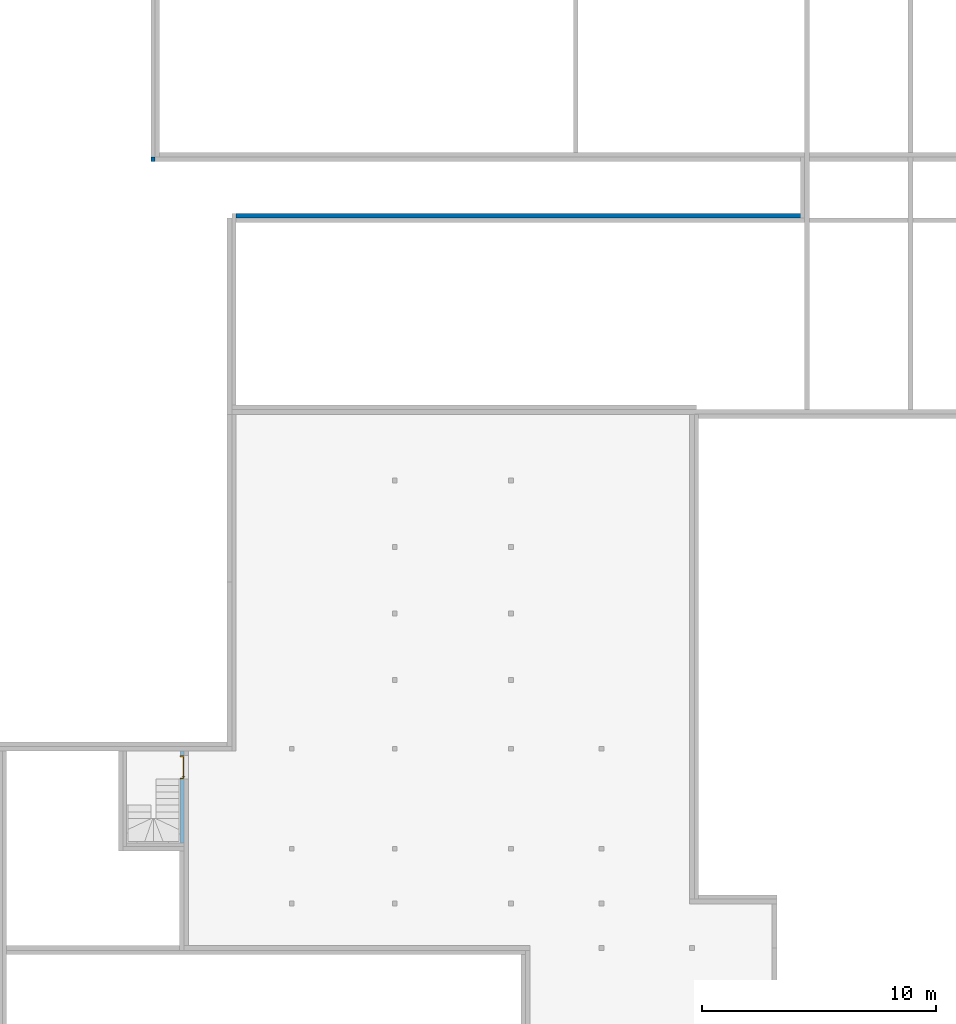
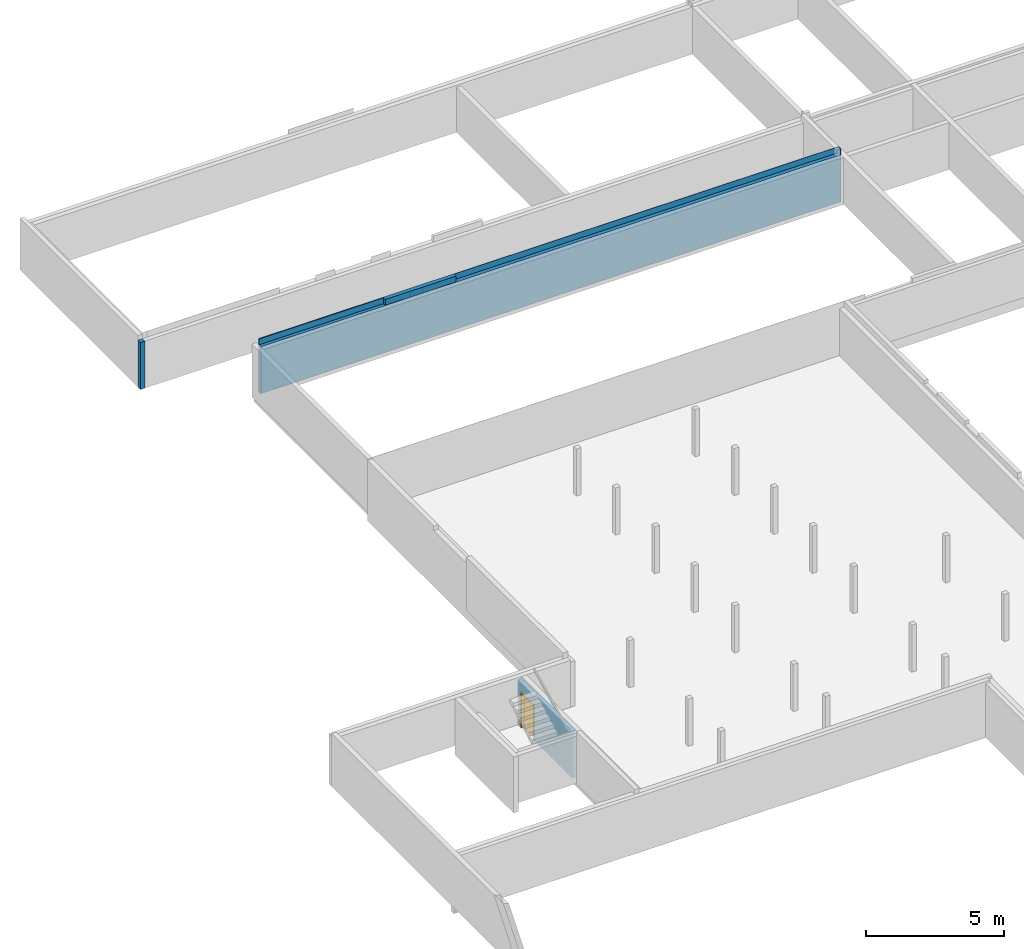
# One storey, part 4 of 6: 2 walls, 1 door, 1 opening, plus 1 element that does not belong to this part.
"""IFC2X3 building model written with IfcOpenShell, lengths in centimetres."""

from ifc_helpers import new_model, entity, si_unit, converted_unit, derived_unit, direction, frame, frame_2d, origin, place, context, subcontext, project, spatial, polyline, rectangle, extrude, clip, bounded_halfspace, faceted_brep, source, transform, mapped, material, material_list, layer, layer_set, layer_usage, type_object, type_shapes, element, fill, save


model = new_model("IFC2X3")

# Units and contexts
model_context = context("Model", 3, precision=0.001, world=origin(), true_north=direction((6.12303176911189e-17, 1.0)))
body_context = subcontext(model_context, "Body", "Model", "MODEL_VIEW")
ifc_project = project(units=[si_unit("LENGTHUNIT", "METRE", prefix="CENTI"), si_unit("AREAUNIT", "SQUARE_METRE"), si_unit("VOLUMEUNIT", "CUBIC_METRE"), converted_unit("PLANEANGLEUNIT", "DEGREE", entity("IfcRatioMeasure", 0.0174532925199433), si_unit("PLANEANGLEUNIT", "RADIAN"), dimensions=[0, 0, 0, 0, 0, 0, 0]), si_unit("MASSUNIT", "GRAM", prefix="KILO"), derived_unit("MASSDENSITYUNIT", [(si_unit("MASSUNIT", "GRAM", prefix="KILO"), 1), (si_unit("LENGTHUNIT", "METRE"), -3)]), si_unit("TIMEUNIT", "SECOND"), si_unit("FREQUENCYUNIT", "HERTZ"), si_unit("THERMODYNAMICTEMPERATUREUNIT", "DEGREE_CELSIUS"), derived_unit("THERMALTRANSMITTANCEUNIT", [(si_unit("MASSUNIT", "GRAM", prefix="KILO"), 1), (si_unit("THERMODYNAMICTEMPERATUREUNIT", "KELVIN"), -1), (si_unit("TIMEUNIT", "SECOND"), -3)]), derived_unit("VOLUMETRICFLOWRATEUNIT", [(si_unit("LENGTHUNIT", "METRE"), 3), (si_unit("TIMEUNIT", "SECOND"), -1)]), si_unit("ELECTRICCURRENTUNIT", "AMPERE"), si_unit("ELECTRICVOLTAGEUNIT", "VOLT"), si_unit("POWERUNIT", "WATT"), si_unit("FORCEUNIT", "NEWTON", prefix="KILO"), si_unit("ILLUMINANCEUNIT", "LUX"), si_unit("LUMINOUSFLUXUNIT", "LUMEN"), si_unit("LUMINOUSINTENSITYUNIT", "CANDELA"), derived_unit("USERDEFINED", [(si_unit("MASSUNIT", "GRAM", prefix="KILO"), -1), (si_unit("LENGTHUNIT", "METRE"), -2), (si_unit("TIMEUNIT", "SECOND"), 3), (si_unit("LUMINOUSFLUXUNIT", "LUMEN"), 1)]), derived_unit("LINEARVELOCITYUNIT", [(si_unit("LENGTHUNIT", "METRE"), 1), (si_unit("TIMEUNIT", "SECOND"), -1)]), si_unit("PRESSUREUNIT", "PASCAL"), derived_unit("USERDEFINED", [(si_unit("LENGTHUNIT", "METRE"), -2), (si_unit("MASSUNIT", "GRAM", prefix="KILO"), 1), (si_unit("TIMEUNIT", "SECOND"), -2)])], contexts=[model_context])

# Site, building, storey
site_placement = place(None, frame((-2781.94577612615, 7442.24238424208, 0.0)))
site = spatial("IfcSite", under=ifc_project, at=site_placement, Name="Default", CompositionType="ELEMENT")
building_placement = place(site_placement, origin())
building = spatial("IfcBuilding", under=site, at=building_placement, CompositionType="ELEMENT")
storey_placement = place(building_placement, frame((0.0, 0.0, -234.674140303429)))
storey = spatial("IfcBuildingStorey", under=building, at=storey_placement, Name="Vide Sanitaire", CompositionType="ELEMENT", Elevation=-234.674140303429)

# Walls
ifc_material_1 = material(Name="00 - Isolant")
ifc_layer_1 = layer(ifc_material_1, 18.0)
ifc_layer_set_1 = layer_set([ifc_layer_1], Name="Mur de base:04 - Parement - ITE 18 - isolation enterrée")
wall_type_1 = type_object("IfcWallType", Name="Mur de base:04 - Parement - ITE 18 - isolation enterrée", PredefinedType="STANDARD", material=ifc_layer_set_1)
wall_1_placement = place(storey_placement, frame((-10863.6130476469, -1081.0, 0.0)))
element("IfcWall", 1, at=wall_1_placement, inside=storey, type_object=wall_type_1, Name="Mur de base:04 - Parement - ITE 18 - isolation enterrée", ObjectType="Mur de base:04 - Parement - ITE 18 - isolation enterrée", context=body_context, shape_type="Brep", body=[
    faceted_brep([(0.0, -9.0, 0.0), (2434.11316997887, -9.0, 0.0), (2434.11316997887, -9.0, 208.674140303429), (2434.11316997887, -9.0, 234.674140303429), (2434.0, -9.0, 234.674140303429), (2430.11316997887, -9.0, 234.674140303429), (2430.11316997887, -9.0, 208.674140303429), (0.0, -9.0, 208.674140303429), (2434.11316997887, 9.0, 0.0), (0.0, 9.0, 0.0), (0.0, 9.0, 199.674140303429), (0.0, 9.0, 234.674140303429), (2434.11316997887, 9.0, 234.674140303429), (0.0, 4.8500000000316, 208.674140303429), (0.0, 4.85000000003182, 234.674140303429), (2434.11316997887, 5.0, 234.674140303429), (523.113169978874, 4.85000000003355, 234.674140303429), (523.113169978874, -7.68999999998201, 234.674140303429), (820.11316997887, -7.68999999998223, 234.674140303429), (820.11316997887, 7.29999999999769, 234.674140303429), (2430.11316997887, 7.30000000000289, 234.674140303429), (523.113169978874, -7.68999999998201, 208.674140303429), (523.113169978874, 4.85000000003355, 208.674140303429), (2430.11316997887, 7.30000000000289, 208.674140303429), (820.11316997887, 7.29999999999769, 208.674140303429), (820.11316997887, -7.68999999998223, 208.674140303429)], [[[0, 1, 2, 3, 4, 5, 6, 7]], [[8, 9, 10, 11, 12]], [[11, 10, 9, 0, 7, 13, 14]], [[8, 12, 15, 3, 2, 1]], [[1, 0, 9, 8]], [[12, 11, 14, 16, 17, 18, 19, 20, 5, 4, 3, 15]], [[21, 22, 13, 7, 6, 23, 24, 25]], [[22, 16, 14, 13]], [[20, 23, 6, 5]], [[22, 21, 17, 16]], [[21, 25, 18, 17]], [[25, 24, 19, 18]], [[24, 23, 20, 19]]]),
])
wall_2_placement = place(storey_placement, frame((-11210.6616968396, -839.048500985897, 0.0), z_axis=(0.0, 0.0, 1.0), x_axis=(-1.0, 0.0, 0.0)))
element("IfcWall", 2, at=wall_2_placement, inside=storey, type_object=wall_type_1, Name="Mur de base:04 - Parement - ITE 18 - isolation enterrée", ObjectType="Mur de base:04 - Parement - ITE 18 - isolation enterrée", context=body_context, shape_type="Brep", body=[
    faceted_brep([(18.0, -9.0, 0.0), (18.0, -9.0, 208.674140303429), (0.0, -9.0, 208.674140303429), (0.0, -9.0, 0.0), (18.0, 9.0, 208.674140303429), (18.0, 9.0, 0.0), (0.0, 9.0, 0.0), (0.0, 9.0, 208.674140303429), (18.0, 5.0, 208.674140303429), (0.0, 5.0, 208.674140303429)], [[[0, 1, 2, 3]], [[4, 5, 6, 7]], [[5, 0, 3, 6]], [[1, 0, 5, 4, 8]], [[3, 2, 9, 7, 6]], [[1, 8, 9, 2]], [[8, 4, 7, 9]]]),
])

# Wall, opening, door
ifc_material_2 = material(Name="01 - Enduit/Plâtre")
ifc_layer_2 = layer(ifc_material_2, 1.3)
ifc_layer_3 = layer(ifc_material_1, 14.0)
ifc_layer_set_2 = layer_set([ifc_layer_2, ifc_layer_3], Name="Mur de base:04 - Parement - ITI 14cm")
ifc_layer_usage = layer_usage(ifc_layer_set_2, "AXIS2", "NEGATIVE", 7.65)
wall_type_2 = type_object("IfcWallType", Name="Mur de base:04 - Parement - ITI 14cm", PredefinedType="STANDARD", material=ifc_layer_set_2)
wall_3_placement = place(storey_placement, frame((-11094.532807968, -3765.4196611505, 0.0), z_axis=(0.0, 0.0, 1.0), x_axis=(0.0, 1.0, 0.0)))
wall_3 = element("IfcWallStandardCase", 3, at=wall_3_placement, inside=storey, type_object=wall_type_2, material=ifc_layer_usage, Name="Mur de base:04 - Parement - ITI 14cm", ObjectType="Mur de base:04 - Parement - ITI 14cm", context=body_context, shape_type="Clipping", body=[
    clip(clip(clip(extrude(rectangle(XDim=392.897854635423, YDim=15.3000000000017, at=frame_2d((196.448927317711, 0.0), x_axis=(-1.0, 0.0))), origin(), (0.0, 0.0, 1.0), 208.674140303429), bounded_halfspace(frame((0.0, 7.65000000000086, 208.674140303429), z_axis=(0.0, 0.0, -1.0), x_axis=(-1.0, 0.0, 0.0)), True, frame((0.0, 7.65000000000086, 208.674140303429)), polyline([(0.0, 0.0), (0.0, -15.3), (273.0, -15.3), (273.0, 0.0), (14.0, 0.0), (0.0, 0.0)]))), bounded_halfspace(frame((273.0, 7.65000000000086, 199.674140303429), z_axis=(0.0, 0.0, -1.0), x_axis=(-1.0, 0.0, 0.0)), True, frame((273.0, 7.65000000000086, 199.674140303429), z_axis=(0.0, 0.0, -1.0), x_axis=(-1.0, 0.0, 0.0)), polyline([(0.0, 0.0), (-119.897854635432, 0.0), (-119.897854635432, -15.2999999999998), (0.0, -15.2999999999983), (0.0, 0.0)]))), bounded_halfspace(frame((273.0, -7.64999999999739, 199.674140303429), z_axis=(-1.0, 0.0, 0.0), x_axis=(0.0, 0.0, 1.0)), True, frame((273.0, -7.64999999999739, 199.674140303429), z_axis=(-1.0, 0.0, 0.0), x_axis=(0.0, 0.0, 1.0)), polyline([(0.0, 0.0), (9.0, 0.0), (9.0, 15.2999999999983), (0.0, 15.2999999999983), (0.0, 0.0)]))),
])
opening_placement = place(wall_3_placement, frame((372.897854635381, 7.65, 0.0)))
opening = element("IfcOpeningElement", 4, at=opening_placement, cuts=wall_3, Name="Int. Simple:PP EXT - Vide sanitaire  (0.93m x 1.80m):1", ObjectType="Opening", context=body_context, shape_type="SweptSolid", body=[
    extrude(rectangle(XDim=158.500000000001, YDim=99.9999999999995, at=frame_2d((79.2500000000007, 49.9999999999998), x_axis=(1.0, 0.0))), frame((0.0, 0.0, 0.0), z_axis=(0.0, -1.0, 0.0), x_axis=(0.0, 0.0, 1.0)), (0.0, 0.0, 1.0), 15.3),
])
ifc_material_3 = material(Name="Finition Peinture - Blanc satiné")
ifc_material_4 = material(Name="Bois - Panneau de porte")
ifc_material_5 = material(Name="Bois - Cadre de porte")
ifc_material_list_1 = material_list([ifc_material_3, ifc_material_4, ifc_material_5])
ifc_material_list_2 = material_list([ifc_material_3, ifc_material_4, ifc_material_5])
door_style = type_object("IfcDoorStyle", Name="PP EXT - Vide sanitaire  (0.93m x 1.80m)", ConstructionType="NOTDEFINED", OperationType="SINGLE_SWING_LEFT", ParameterTakesPrecedence=False, Sizeable=False, material=ifc_material_list_2)
shared_shape = source(origin(), body_context, "Body", "Brep", [
    faceted_brep([(10.5352761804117, -0.500000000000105, 86.6003983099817), (11.5000000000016, -0.500000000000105, 87.0), (11.5000000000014, -0.500000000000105, 108.0), (10.5352761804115, -0.500000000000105, 108.399601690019), (9.50000000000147, -0.500000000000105, 108.535898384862), (8.46472381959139, -0.500000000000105, 108.399601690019), (7.50000000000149, -0.500000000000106, 108.0), (7.50000000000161, -0.500000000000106, 87.0), (8.46472381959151, -0.500000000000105, 86.6003983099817), (9.50000000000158, -0.500000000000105, 86.464101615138), (10.5352761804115, 0.0, 108.399601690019), (11.5000000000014, 0.0, 108.0), (11.5000000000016, 0.0, 87.0), (10.5352761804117, 0.0, 86.6003983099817), (9.50000000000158, 0.0, 86.464101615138), (8.46472381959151, 0.0, 86.6003983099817), (7.50000000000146, 0.0, 87.0), (7.50000000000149, 0.0, 108.0), (8.46472381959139, 0.0, 108.399601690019), (9.50000000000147, 0.0, 108.535898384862)], [[[0, 1, 2, 3, 4, 5, 6, 7, 8, 9]], [[10, 11, 12, 13, 14, 15, 16, 17, 18, 19]], [[16, 15, 8, 7]], [[8, 15, 14, 9]], [[14, 13, 0, 9]], [[13, 12, 1, 0]], [[2, 1, 12, 11]], [[11, 10, 3, 2]], [[3, 10, 19, 4]], [[19, 18, 5, 4]], [[18, 17, 6, 5]], [[7, 6, 17, 16]]]),
    faceted_brep([(10.5352761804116, 4.0, 86.6003983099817), (11.5000000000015, 4.0, 87.0), (11.5000000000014, 4.0, 108.0), (10.5352761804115, 4.0, 108.399601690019), (9.50000000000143, 4.0, 108.535898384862), (8.46472381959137, 4.0, 108.399601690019), (7.50000000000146, 4.0, 108.0), (7.50000000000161, 4.0, 87.0), (8.46472381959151, 4.0, 86.6003983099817), (9.50000000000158, 4.0, 86.464101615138), (10.5352761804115, 4.49999999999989, 108.399601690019), (11.5000000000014, 4.49999999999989, 108.0), (11.5000000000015, 4.49999999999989, 87.0), (10.5352761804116, 4.49999999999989, 86.6003983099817), (9.50000000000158, 4.49999999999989, 86.464101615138), (8.46472381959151, 4.49999999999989, 86.6003983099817), (7.50000000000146, 4.49999999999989, 87.0), (7.50000000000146, 4.49999999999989, 108.0), (8.46472381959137, 4.49999999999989, 108.399601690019), (9.50000000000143, 4.49999999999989, 108.535898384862)], [[[0, 1, 2, 3, 4, 5, 6, 7, 8, 9]], [[10, 11, 12, 13, 14, 15, 16, 17, 18, 19]], [[11, 10, 3, 2]], [[3, 10, 19, 4]], [[19, 18, 5, 4]], [[18, 17, 6, 5]], [[7, 6, 17, 16]], [[16, 15, 8, 7]], [[8, 15, 14, 9]], [[14, 13, 0, 9]], [[13, 12, 1, 0]], [[2, 1, 12, 11]]]),
    faceted_brep([(9.29747013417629, -0.500000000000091, 100.778044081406), (9.70252986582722, -0.500000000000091, 100.778044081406), (10.1000000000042, -0.500000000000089, 100.699999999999), (10.1000000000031, -0.500000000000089, 99.3000000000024), (9.7025298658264, -0.500000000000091, 99.2219559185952), (9.29747013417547, -0.500000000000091, 99.221955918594), (8.8999999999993, -0.500000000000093, 99.2999999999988), (8.89999999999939, -0.500000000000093, 100.7), (8.89999999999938, -3.26509507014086, 100.7), (9.29747013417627, -3.10045754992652, 100.778044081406), (10.9023585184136, -4.70534593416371, 100.778044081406), (11.0701397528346, -4.30028620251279, 100.778044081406), (9.7025298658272, -2.93267631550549, 100.778044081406), (10.1000000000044, -2.76803879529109, 100.7), (10.1000000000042, -2.76803879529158, 99.3000000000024), (9.7025298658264, -2.93267631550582, 99.2219559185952), (11.0701397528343, -4.30028620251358, 99.2219559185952), (10.9023585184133, -4.70534593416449, 99.221955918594), (9.29747013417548, -3.10045754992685, 99.221955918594), (8.89999999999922, -3.26509507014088, 99.2999999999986), (10.7377209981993, -5.10281606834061, 100.7), (11.2347772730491, -3.90281606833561, 100.7), (11.2347772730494, -3.90281606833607, 99.3000000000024), (10.7377209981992, -5.10281606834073, 99.2999999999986), (19.5018640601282, -5.1028160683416, 99.2999999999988), (19.5018640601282, -4.70534593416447, 99.221955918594), (19.5018640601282, -4.30028620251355, 99.2219559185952), (19.5018640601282, -3.90281606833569, 99.3000000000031), (19.5018640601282, -3.90281606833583, 100.7), (19.5018640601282, -4.30028620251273, 100.778044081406), (19.5018640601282, -4.70534593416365, 100.778044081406), (19.5018640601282, -5.10281606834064, 100.699999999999), (14.7307697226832, -5.10281606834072, 100.7), (15.2860019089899, -4.5028160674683, 100.78786867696), (15.3683206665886, -3.9028160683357, 100.7), (15.3683206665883, -3.90281606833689, 99.3000000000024), (15.2860018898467, -4.50281607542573, 99.2121313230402), (14.7307700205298, -5.10281606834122, 99.2999999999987)], [[[0, 1, 2, 3, 4, 5, 6, 7]], [[8, 9, 0, 7]], [[9, 10, 11, 12, 1, 0]], [[12, 13, 2, 1]], [[3, 2, 13, 14]], [[14, 15, 4, 3]], [[15, 16, 17, 18, 5, 4]], [[18, 19, 6, 5]], [[7, 6, 19, 8]], [[20, 10, 9, 8]], [[11, 21, 13, 12]], [[14, 13, 21, 22]], [[22, 16, 15, 14]], [[17, 23, 19, 18]], [[8, 19, 23, 20]], [[24, 25, 26, 27, 28, 29, 30, 31]], [[32, 30, 33]], [[31, 30, 32]], [[10, 20, 32]], [[33, 34, 11]], [[21, 11, 34]], [[34, 29, 28]], [[30, 29, 33]], [[29, 34, 33]], [[10, 32, 33]], [[10, 33, 11]], [[22, 21, 34, 28, 27, 35]], [[35, 26, 36]], [[37, 36, 25]], [[22, 35, 16]], [[35, 27, 26]], [[24, 37, 25]], [[23, 17, 37]], [[37, 17, 36]], [[17, 16, 36]], [[16, 35, 36]], [[25, 36, 26]], [[20, 23, 37, 24, 31, 32]]]),
    faceted_brep([(9.29747013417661, 4.49999999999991, 100.778044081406), (8.89999999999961, 4.4999999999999, 100.7), (8.89999999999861, 4.4999999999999, 99.2999999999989), (9.29747013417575, 4.49999999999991, 99.221955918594), (9.70252986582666, 4.49999999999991, 99.2219559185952), (10.1000000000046, 4.49999999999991, 99.3000000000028), (10.1000000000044, 4.49999999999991, 100.7), (9.70252986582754, 4.49999999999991, 100.778044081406), (10.1000000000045, 6.7485204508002, 99.3000000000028), (10.1000000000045, 6.74852045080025, 100.7), (9.70252986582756, 6.91315797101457, 100.778044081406), (11.083890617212, 8.29451872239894, 100.778044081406), (10.916109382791, 8.69957845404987, 100.778044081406), (9.29747013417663, 7.0809392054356, 100.778044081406), (8.89999999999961, 7.24557672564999, 100.7), (8.89999999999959, 7.2455767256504, 99.2999999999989), (9.29747013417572, 7.08093920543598, 99.221955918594), (10.9161093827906, 8.69957845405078, 99.221955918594), (11.0838906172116, 8.29451872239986, 99.2219559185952), (9.70252986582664, 6.91315797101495, 99.2219559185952), (11.2485281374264, 7.89704858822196, 99.3000000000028), (11.2485281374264, 7.89704858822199, 100.7), (10.7514718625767, 9.09704858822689, 100.7), (10.7514718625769, 9.0970485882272, 99.2999999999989), (19.5045783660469, 7.89704858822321, 99.3000000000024), (19.5045783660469, 8.29451872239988, 99.2219559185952), (19.5045783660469, 8.6995784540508, 99.221955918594), (19.5045783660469, 9.09704858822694, 99.2999999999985), (19.5045783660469, 9.09704858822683, 100.7), (19.5045783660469, 8.69957845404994, 100.778044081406), (19.5045783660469, 8.29451872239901, 100.778044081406), (19.5045783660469, 7.89704858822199, 100.7), (15.3765520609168, 7.89704858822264, 99.3000000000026), (15.3765532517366, 7.89704858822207, 100.7), (15.294234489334, 8.49704858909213, 100.78786867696), (14.7445205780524, 9.09704858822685, 100.7), (14.7445204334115, 9.09704858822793, 99.2999999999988), (15.2942345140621, 8.49704858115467, 99.2121313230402)], [[[0, 1, 2, 3, 4, 5, 6, 7]], [[6, 5, 8, 9]], [[9, 10, 7, 6]], [[10, 11, 12, 13, 0, 7]], [[13, 14, 1, 0]], [[2, 1, 14, 15]], [[15, 16, 3, 2]], [[16, 17, 18, 19, 4, 3]], [[19, 8, 5, 4]], [[9, 8, 20, 21]], [[21, 11, 10, 9]], [[12, 22, 14, 13]], [[15, 14, 22, 23]], [[23, 17, 16, 15]], [[18, 20, 8, 19]], [[24, 25, 26, 27, 28, 29, 30, 31]], [[21, 20, 32, 24, 31, 33]], [[33, 30, 34]], [[35, 34, 29]], [[21, 33, 11]], [[33, 31, 30]], [[28, 35, 29]], [[22, 12, 35]], [[35, 12, 34]], [[12, 11, 34]], [[11, 33, 34]], [[29, 34, 30]], [[22, 35, 28, 27, 36, 23]], [[36, 26, 37]], [[27, 26, 36]], [[17, 23, 36]], [[37, 32, 18]], [[20, 18, 32]], [[32, 25, 24]], [[26, 25, 37]], [[25, 32, 37]], [[17, 36, 37]], [[17, 37, 18]]]),
    faceted_brep([(3.50000000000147, 4.0, 155.0), (96.5000000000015, 4.0, 155.0), (96.5000000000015, 4.0, 0.0), (3.50000000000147, 4.0, 0.0), (3.50000000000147, 0.0, 155.0), (3.50000000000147, 0.0, 0.0), (96.5000000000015, 0.0, 0.0), (96.5000000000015, 0.0, 155.0)], [[[0, 1, 2, 3]], [[4, 5, 6, 7]], [[1, 0, 4, 7]], [[2, 1, 7, 6]], [[3, 2, 6, 5]], [[0, 3, 5, 4]]]),
    faceted_brep([(0.0, 15.3000000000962, 0.0), (-1.50000000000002, 15.3000000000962, 0.0), (-1.50000000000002, 15.8000000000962, 0.0), (5.0, 15.8000000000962, 0.0), (5.0, 4.0, 0.0), (3.50000000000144, 4.0, 0.0), (3.50000000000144, -0.500000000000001, 0.0), (-1.50000000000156, -0.500000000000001, 0.0), (-1.50000000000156, 0.0, 0.0), (0.0, 0.0, 0.0), (0.0, 15.3000000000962, 158.500000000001), (100.0, 15.3000000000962, 158.500000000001), (100.0, 15.3000000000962, 0.0), (101.5, 15.3000000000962, 0.0), (101.5, 15.3000000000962, 160.0), (-1.50000000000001, 15.3000000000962, 160.0), (-1.50000000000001, 15.8000000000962, 160.0), (101.5, 15.8000000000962, 160.0), (101.5, 15.8000000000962, 0.0), (95.0, 15.8000000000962, 0.0), (95.0, 15.8000000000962, 153.5), (5.0, 15.8000000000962, 153.5), (5.0, 4.0, 153.5), (95.0, 4.0, 153.5), (95.0, 4.0, 0.0), (96.499999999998, 4.0, 0.0), (96.499999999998, 4.0, 155.0), (3.50000000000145, 4.0, 155.0), (3.50000000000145, -0.500000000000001, 155.0), (96.499999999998, -0.500000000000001, 155.0), (96.499999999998, -0.500000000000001, 0.0), (101.500000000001, -0.500000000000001, 0.0), (101.500000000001, -0.500000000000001, 160.0), (-1.50000000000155, -0.500000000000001, 160.0), (-1.50000000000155, 0.0, 160.0), (101.500000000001, 0.0, 160.0), (101.500000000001, 0.0, 0.0), (100.0, 0.0, 0.0), (100.0, 0.0, 158.500000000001), (0.0, 0.0, 158.500000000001)], [[[0, 1, 2, 3, 4, 5, 6, 7, 8, 9]], [[1, 0, 10, 11, 12, 13, 14, 15]], [[2, 1, 15, 16]], [[3, 2, 16, 17, 18, 19, 20, 21]], [[3, 21, 22, 4]], [[5, 4, 22, 23, 24, 25, 26, 27]], [[5, 27, 28, 6]], [[7, 6, 28, 29, 30, 31, 32, 33]], [[8, 7, 33, 34]], [[9, 8, 34, 35, 36, 37, 38, 39]], [[0, 9, 39, 10]], [[11, 38, 37, 12]], [[12, 37, 36, 31, 30, 25, 24, 19, 18, 13]], [[17, 14, 13, 18]], [[23, 20, 19, 24]], [[29, 26, 25, 30]], [[35, 32, 31, 36]], [[16, 15, 14, 17]], [[22, 21, 20, 23]], [[28, 27, 26, 29]], [[34, 33, 32, 35]], [[10, 39, 38, 11]]]),
])
type_shapes(door_style, [shared_shape])
door_placement = place(opening_placement, frame((-100.0, -15.2999999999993, 0.0)))
door = element("IfcDoor", 5, at=door_placement, inside=storey, type_object=door_style, material=ifc_material_list_1, Name="Int. Simple:PP EXT - Vide sanitaire  (0.93m x 1.80m)", ObjectType="Int. Simple:PP EXT - Vide sanitaire  (0.93m x 1.80m)", OverallHeight=158.500000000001, OverallWidth=99.9999999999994, context=body_context, shape_type="MappedRepresentation", body=[
    mapped(shared_shape, transform((0.0, 0.0, 0.0), scale=1.0)),
])
fill(opening, door)

save(model, "model.ifc")
